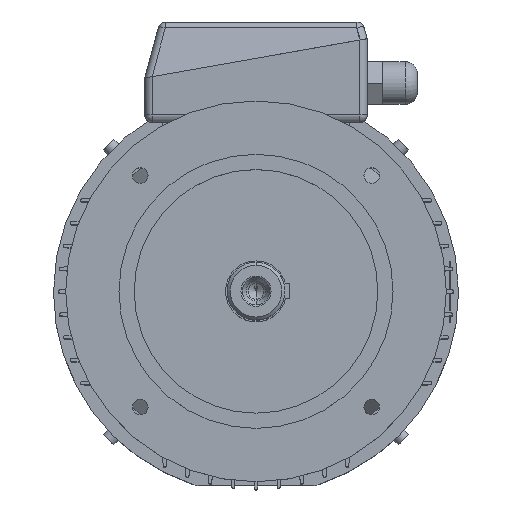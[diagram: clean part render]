
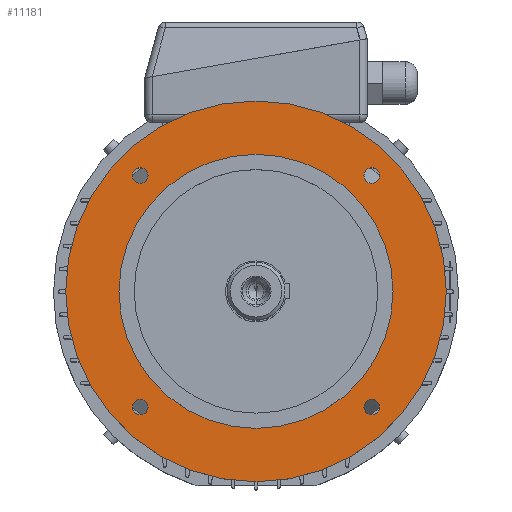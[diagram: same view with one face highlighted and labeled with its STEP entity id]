
A CAD part, top view. The second image highlights one B-rep face of the part: STEP entity #11181.
In plain terms, the highlighted planar face has unit normal (0, 0, 1).
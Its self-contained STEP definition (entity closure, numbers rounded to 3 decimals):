
#16390 = CARTESIAN_POINT ( 'NONE',  ( 81.114, -76.014, 58. ) ) ;
#16558 = CIRCLE ( 'NONE', #16559, 5.1 ) ;
#16559 = AXIS2_PLACEMENT_3D ( 'NONE', #16560, #16561, #16562 ) ;
#16560 = CARTESIAN_POINT ( 'NONE',  ( 76.014, -76.014, 58. ) ) ;
#16561 = DIRECTION ( 'NONE',  ( 0., 0., 1. ) ) ;
#16562 = DIRECTION ( 'NONE',  ( 1., 0., 0. ) ) ;
#221 = ORIENTED_EDGE ( 'NONE', *, *, #18926, .F. ) ;
#344 = VERTEX_POINT ( 'NONE', #11465 ) ;
#16849 = CIRCLE ( 'NONE', #16850, 5.1 ) ;
#16850 = AXIS2_PLACEMENT_3D ( 'NONE', #16851, #16852, #16853 ) ;
#16851 = CARTESIAN_POINT ( 'NONE',  ( -76.014, -76.014, 58. ) ) ;
#16852 = DIRECTION ( 'NONE',  ( 0., 0., 1. ) ) ;
#16853 = DIRECTION ( 'NONE',  ( 1., 0., 0. ) ) ;
#16993 = EDGE_CURVE ( 'NONE', #6051, #15494, #8411, .T. ) ;
#808 = CARTESIAN_POINT ( 'NONE',  ( -70.914, -76.014, 58. ) ) ;
#823 = EDGE_LOOP ( 'NONE', ( #221, #18315 ) ) ;
#901 = VERTEX_POINT ( 'NONE', #11795 ) ;
#1042 = CIRCLE ( 'NONE', #1050, 5.1 ) ;
#1050 = AXIS2_PLACEMENT_3D ( 'NONE', #1051, #1052, #1053 ) ;
#1051 = CARTESIAN_POINT ( 'NONE',  ( -76.014, -76.014, 58. ) ) ;
#1052 = DIRECTION ( 'NONE',  ( 0., 0., 1. ) ) ;
#1053 = DIRECTION ( 'NONE',  ( 1., 0., 0. ) ) ;
#17430 = ORIENTED_EDGE ( 'NONE', *, *, #16993, .F. ) ;
#17465 = CARTESIAN_POINT ( 'NONE',  ( -90., 0., 58. ) ) ;
#1108 = ORIENTED_EDGE ( 'NONE', *, *, #10655, .F. ) ;
#1174 = EDGE_CURVE ( 'NONE', #11060, #901, #12012, .T. ) ;
#17627 = CARTESIAN_POINT ( 'NONE',  ( 90., 0., 58. ) ) ;
#17773 = CIRCLE ( 'NONE', #17774, 90. ) ;
#17774 = AXIS2_PLACEMENT_3D ( 'NONE', #17775, #17776, #17777 ) ;
#17775 = CARTESIAN_POINT ( 'NONE',  ( 0., 0., 58. ) ) ;
#17776 = DIRECTION ( 'NONE',  ( 0., 0., 1. ) ) ;
#17777 = DIRECTION ( 'NONE',  ( 1., 0., 0. ) ) ;
#1528 = CARTESIAN_POINT ( 'NONE',  ( -70.914, 76.014, 58. ) ) ;
#17980 = VERTEX_POINT ( 'NONE', #9066 ) ;
#1648 = CIRCLE ( 'NONE', #1649, 5.1 ) ;
#18024 = EDGE_LOOP ( 'NONE', ( #17430, #16376 ) ) ;
#1649 = AXIS2_PLACEMENT_3D ( 'NONE', #1650, #1651, #1652 ) ;
#1650 = CARTESIAN_POINT ( 'NONE',  ( -76.014, 76.014, 58. ) ) ;
#1651 = DIRECTION ( 'NONE',  ( 0., 0., 1. ) ) ;
#1652 = DIRECTION ( 'NONE',  ( 1., 0., 0. ) ) ;
#1716 = CARTESIAN_POINT ( 'NONE',  ( -81.114, -76.014, 58. ) ) ;
#18249 = EDGE_CURVE ( 'NONE', #17980, #344, #9195, .T. ) ;
#18315 = ORIENTED_EDGE ( 'NONE', *, *, #1174, .F. ) ;
#2374 = CIRCLE ( 'NONE', #2375, 5.1 ) ;
#2375 = AXIS2_PLACEMENT_3D ( 'NONE', #2376, #2377, #2378 ) ;
#2376 = CARTESIAN_POINT ( 'NONE',  ( -76.014, 76.014, 58. ) ) ;
#2377 = DIRECTION ( 'NONE',  ( 0., 0., 1. ) ) ;
#2378 = DIRECTION ( 'NONE',  ( 1., 0., 0. ) ) ;
#18926 = EDGE_CURVE ( 'NONE', #901, #11060, #9848, .T. ) ;
#2567 = CARTESIAN_POINT ( 'NONE',  ( -81.114, 76.014, 58. ) ) ;
#2684 = CARTESIAN_POINT ( 'NONE',  ( 70.914, 76.014, 58. ) ) ;
#2775 = ORIENTED_EDGE ( 'NONE', *, *, #11520, .T. ) ;
#3074 = FACE_BOUND ( 'NONE', #11101, .T. ) ;
#3075 = FACE_BOUND ( 'NONE', #823, .T. ) ;
#3076 = FACE_BOUND ( 'NONE', #18024, .T. ) ;
#3077 = FACE_BOUND ( 'NONE', #16072, .T. ) ;
#3078 = FACE_BOUND ( 'NONE', #5931, .T. ) ;
#3079 = FACE_OUTER_BOUND ( 'NONE', #3992, .T. ) ;
#3080 = PLANE ( 'NONE',  #3081 ) ;
#3081 = AXIS2_PLACEMENT_3D ( 'NONE', #3082, #3083, #3086 ) ;
#3082 = CARTESIAN_POINT ( 'NONE',  ( 0., 125., 58. ) ) ;
#3083 = DIRECTION ( 'NONE',  ( 0., 0., -1. ) ) ;
#3086 = DIRECTION ( 'NONE',  ( -1., 0., 0. ) ) ;
#3288 = CIRCLE ( 'NONE', #3289, 125. ) ;
#3289 = AXIS2_PLACEMENT_3D ( 'NONE', #3290, #3291, #3298 ) ;
#3290 = CARTESIAN_POINT ( 'NONE',  ( 0., 0., 58. ) ) ;
#3291 = DIRECTION ( 'NONE',  ( 0., 0., 1. ) ) ;
#3298 = DIRECTION ( 'NONE',  ( 1., 0., 0. ) ) ;
#3380 = ORIENTED_EDGE ( 'NONE', *, *, #18249, .T. ) ;
#3992 = EDGE_LOOP ( 'NONE', ( #3380, #2775 ) ) ;
#4271 = EDGE_CURVE ( 'NONE', #7652, #7908, #15100, .T. ) ;
#4706 = ORIENTED_EDGE ( 'NONE', *, *, #4271, .F. ) ;
#5318 = ORIENTED_EDGE ( 'NONE', *, *, #8160, .F. ) ;
#5931 = EDGE_LOOP ( 'NONE', ( #5318, #4706 ) ) ;
#6051 = VERTEX_POINT ( 'NONE', #16390 ) ;
#6200 = ORIENTED_EDGE ( 'NONE', *, *, #10395, .F. ) ;
#6302 = EDGE_CURVE ( 'NONE', #15494, #6051, #16558, .T. ) ;
#6807 = EDGE_CURVE ( 'NONE', #10330, #10678, #16849, .T. ) ;
#6944 = CARTESIAN_POINT ( 'NONE',  ( 70.914, -76.014, 58. ) ) ;
#7166 = ORIENTED_EDGE ( 'NONE', *, *, #6807, .F. ) ;
#7652 = VERTEX_POINT ( 'NONE', #17465 ) ;
#7908 = VERTEX_POINT ( 'NONE', #17627 ) ;
#8160 = EDGE_CURVE ( 'NONE', #7908, #7652, #17773, .T. ) ;
#8411 = CIRCLE ( 'NONE', #8412, 5.1 ) ;
#8412 = AXIS2_PLACEMENT_3D ( 'NONE', #8413, #8414, #8415 ) ;
#8413 = CARTESIAN_POINT ( 'NONE',  ( 76.014, -76.014, 58. ) ) ;
#8414 = DIRECTION ( 'NONE',  ( 0., 0., 1. ) ) ;
#8415 = DIRECTION ( 'NONE',  ( 1., 0., 0. ) ) ;
#9066 = CARTESIAN_POINT ( 'NONE',  ( 125., 0., 58. ) ) ;
#9195 = CIRCLE ( 'NONE', #9196, 125. ) ;
#9196 = AXIS2_PLACEMENT_3D ( 'NONE', #9197, #9198, #9199 ) ;
#9197 = CARTESIAN_POINT ( 'NONE',  ( 0., 0., 58. ) ) ;
#9198 = DIRECTION ( 'NONE',  ( 0., 0., 1. ) ) ;
#9199 = DIRECTION ( 'NONE',  ( 1., 0., 0. ) ) ;
#9848 = CIRCLE ( 'NONE', #9849, 5.1 ) ;
#9849 = AXIS2_PLACEMENT_3D ( 'NONE', #9850, #9851, #9852 ) ;
#9850 = CARTESIAN_POINT ( 'NONE',  ( 76.014, 76.014, 58. ) ) ;
#9851 = DIRECTION ( 'NONE',  ( 0., 0., 1. ) ) ;
#9852 = DIRECTION ( 'NONE',  ( 1., 0., 0. ) ) ;
#10330 = VERTEX_POINT ( 'NONE', #808 ) ;
#10395 = EDGE_CURVE ( 'NONE', #10678, #10330, #1042, .T. ) ;
#10588 = VERTEX_POINT ( 'NONE', #1528 ) ;
#10655 = EDGE_CURVE ( 'NONE', #10990, #10588, #1648, .T. ) ;
#10678 = VERTEX_POINT ( 'NONE', #1716 ) ;
#10896 = EDGE_CURVE ( 'NONE', #10588, #10990, #2374, .T. ) ;
#10945 = ORIENTED_EDGE ( 'NONE', *, *, #10896, .F. ) ;
#10990 = VERTEX_POINT ( 'NONE', #2567 ) ;
#11060 = VERTEX_POINT ( 'NONE', #2684 ) ;
#11101 = EDGE_LOOP ( 'NONE', ( #10945, #1108 ) ) ;
#11181 = ADVANCED_FACE ( 'NONE', ( #3074, #3075, #3076, #3077, #3078, #3079 ), #3080, .F. ) ;
#11465 = CARTESIAN_POINT ( 'NONE',  ( -125., 0., 58. ) ) ;
#11520 = EDGE_CURVE ( 'NONE', #344, #17980, #3288, .T. ) ;
#11795 = CARTESIAN_POINT ( 'NONE',  ( 81.114, 76.014, 58. ) ) ;
#12012 = CIRCLE ( 'NONE', #12013, 5.1 ) ;
#12013 = AXIS2_PLACEMENT_3D ( 'NONE', #12014, #12015, #12016 ) ;
#12014 = CARTESIAN_POINT ( 'NONE',  ( 76.014, 76.014, 58. ) ) ;
#12015 = DIRECTION ( 'NONE',  ( 0., 0., 1. ) ) ;
#12016 = DIRECTION ( 'NONE',  ( 1., 0., 0. ) ) ;
#15100 = CIRCLE ( 'NONE', #15101, 90. ) ;
#15101 = AXIS2_PLACEMENT_3D ( 'NONE', #15102, #15104, #15105 ) ;
#15102 = CARTESIAN_POINT ( 'NONE',  ( 0., 0., 58. ) ) ;
#15104 = DIRECTION ( 'NONE',  ( 0., 0., 1. ) ) ;
#15105 = DIRECTION ( 'NONE',  ( 1., 0., 0. ) ) ;
#15494 = VERTEX_POINT ( 'NONE', #6944 ) ;
#16072 = EDGE_LOOP ( 'NONE', ( #7166, #6200 ) ) ;
#16376 = ORIENTED_EDGE ( 'NONE', *, *, #6302, .F. ) ;
